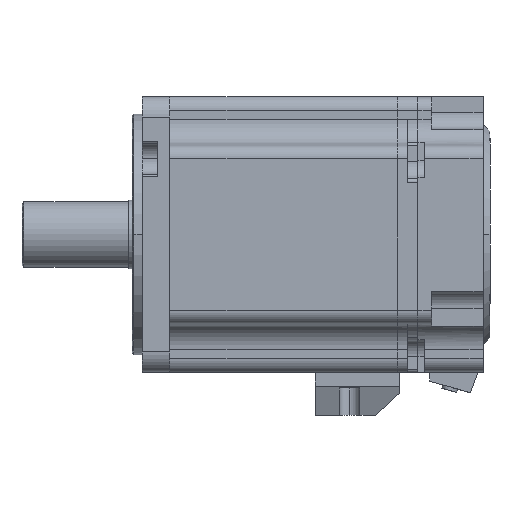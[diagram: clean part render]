
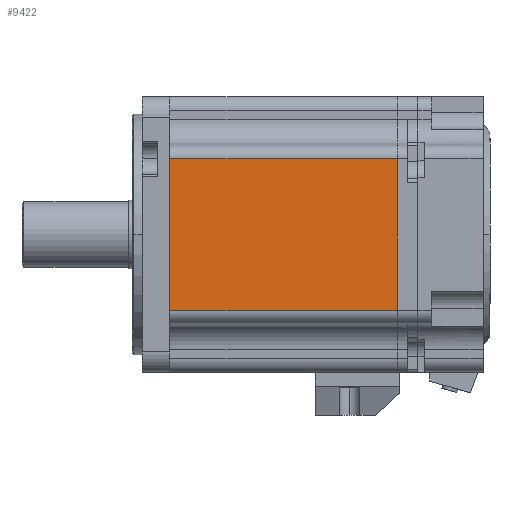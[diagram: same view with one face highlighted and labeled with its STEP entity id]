
A CAD part, front view. The second image highlights one B-rep face of the part: STEP entity #9422.
In plain terms, the highlighted planar face has unit normal (0, -1, 0).
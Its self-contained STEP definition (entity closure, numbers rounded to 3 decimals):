
#1385 = EDGE_CURVE ( 'NONE', #2836, #18038, #6814, .T. ) ;
#1823 = DIRECTION ( 'NONE',  ( 0., 1., 0. ) ) ;
#2836 = VERTEX_POINT ( 'NONE', #5136 ) ;
#2929 = CARTESIAN_POINT ( 'NONE',  ( 42.804, -41.78, 141.7 ) ) ;
#3939 = PLANE ( 'NONE',  #22032 ) ;
#4837 = ORIENTED_EDGE ( 'NONE', *, *, #9704, .F. ) ;
#5136 = CARTESIAN_POINT ( 'NONE',  ( 42.804, -41.78, 141.7 ) ) ;
#6580 = DIRECTION ( 'NONE',  ( 0., 0., -1. ) ) ;
#6814 = LINE ( 'NONE', #11021, #16429 ) ;
#7293 = EDGE_CURVE ( 'NONE', #11954, #11718, #18876, .T. ) ;
#7946 = CARTESIAN_POINT ( 'NONE',  ( -23.196, -41.78, 97.7 ) ) ;
#9305 = ORIENTED_EDGE ( 'NONE', *, *, #23819, .F. ) ;
#9422 = ADVANCED_FACE ( 'NONE', ( #11602 ), #3939, .F. ) ;
#9704 = EDGE_CURVE ( 'NONE', #18038, #11954, #11977, .T. ) ;
#10492 = DIRECTION ( 'NONE',  ( 0., 0., 1. ) ) ;
#11021 = CARTESIAN_POINT ( 'NONE',  ( 42.804, -41.78, 97.7 ) ) ;
#11602 = FACE_OUTER_BOUND ( 'NONE', #19697, .T. ) ;
#11718 = VERTEX_POINT ( 'NONE', #24236 ) ;
#11729 = VECTOR ( 'NONE', #17460, 1000. ) ;
#11876 = LINE ( 'NONE', #2929, #27638 ) ;
#11954 = VERTEX_POINT ( 'NONE', #7946 ) ;
#11977 = LINE ( 'NONE', #18100, #17092 ) ;
#14514 = CARTESIAN_POINT ( 'NONE',  ( 42.804, -41.78, 97.7 ) ) ;
#15804 = ORIENTED_EDGE ( 'NONE', *, *, #1385, .F. ) ;
#16429 = VECTOR ( 'NONE', #6580, 1000. ) ;
#16888 = CARTESIAN_POINT ( 'NONE',  ( 42.804, -41.78, 97.7 ) ) ;
#17092 = VECTOR ( 'NONE', #25025, 1000. ) ;
#17460 = DIRECTION ( 'NONE',  ( 0., 0., 1. ) ) ;
#18038 = VERTEX_POINT ( 'NONE', #14514 ) ;
#18100 = CARTESIAN_POINT ( 'NONE',  ( 42.804, -41.78, 97.7 ) ) ;
#18457 = ORIENTED_EDGE ( 'NONE', *, *, #7293, .F. ) ;
#18876 = LINE ( 'NONE', #19725, #11729 ) ;
#19697 = EDGE_LOOP ( 'NONE', ( #4837, #15804, #9305, #18457 ) ) ;
#19725 = CARTESIAN_POINT ( 'NONE',  ( -23.196, -41.78, 119.7 ) ) ;
#22032 = AXIS2_PLACEMENT_3D ( 'NONE', #16888, #1823, #10492 ) ;
#23819 = EDGE_CURVE ( 'NONE', #11718, #2836, #11876, .T. ) ;
#24236 = CARTESIAN_POINT ( 'NONE',  ( -23.196, -41.78, 141.7 ) ) ;
#24999 = DIRECTION ( 'NONE',  ( 1., 0., 0. ) ) ;
#25025 = DIRECTION ( 'NONE',  ( -1., 0., 0. ) ) ;
#27638 = VECTOR ( 'NONE', #24999, 1000. ) ;
